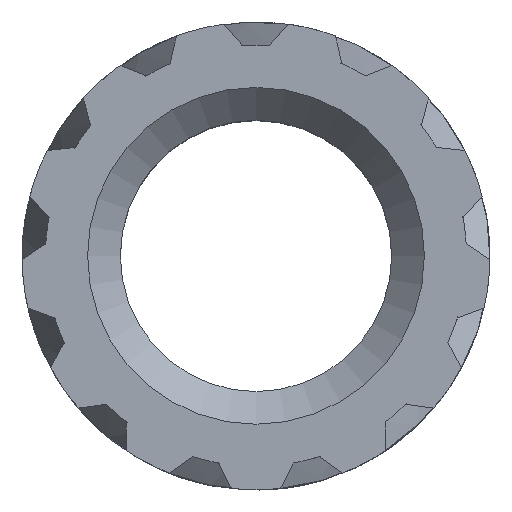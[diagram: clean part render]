
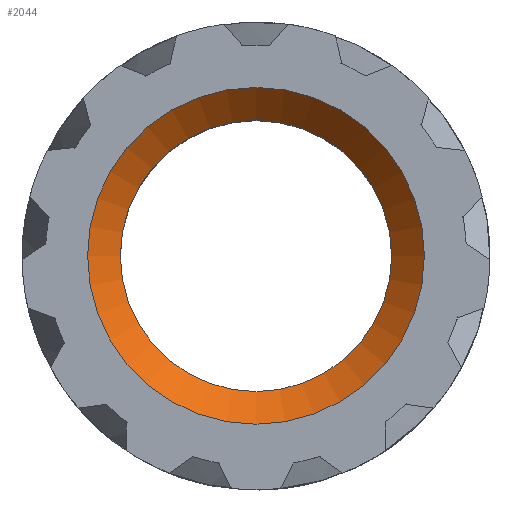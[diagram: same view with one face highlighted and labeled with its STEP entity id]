
A CAD part, top view. The second image highlights one B-rep face of the part: STEP entity #2044.
In plain terms, the highlighted conical face has half-angle 45 degrees and reference radius 1.65 mm.
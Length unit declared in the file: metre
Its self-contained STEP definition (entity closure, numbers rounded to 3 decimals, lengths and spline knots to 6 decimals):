
#13=CONICAL_SURFACE('',#2209,0.00165,0.785);
#973=ORIENTED_EDGE('',*,*,#1301,.T.);
#974=ORIENTED_EDGE('',*,*,#1302,.T.);
#1301=EDGE_CURVE('',#1521,#1521,#1637,.T.);
#1302=EDGE_CURVE('',#1522,#1522,#1638,.T.);
#1521=VERTEX_POINT('',#5932);
#1522=VERTEX_POINT('',#5935);
#1637=CIRCLE('',#2208,0.0018);
#1638=CIRCLE('',#2210,0.00145);
#1763=EDGE_LOOP('',(#973));
#1764=EDGE_LOOP('',(#974));
#1893=FACE_BOUND('',#1763,.T.);
#1894=FACE_BOUND('',#1764,.T.);
#2044=ADVANCED_FACE('',(#1893,#1894),#13,.F.);
#2208=AXIS2_PLACEMENT_3D('',#5931,#2538,#2539);
#2209=AXIS2_PLACEMENT_3D('',#5933,#2540,#2541);
#2210=AXIS2_PLACEMENT_3D('',#5934,#2542,#2543);
#2538=DIRECTION('',(0.,0.,1.));
#2539=DIRECTION('',(-1.,0.,0.));
#2540=DIRECTION('',(0.,0.,1.));
#2541=DIRECTION('',(-1.,0.,0.));
#2542=DIRECTION('',(0.,0.,-1.));
#2543=DIRECTION('',(-1.,0.,0.));
#5931=CARTESIAN_POINT('',(0.,0.,0.00385));
#5932=CARTESIAN_POINT('',(-0.0018,0.,0.00385));
#5933=CARTESIAN_POINT('',(0.,0.,0.0037));
#5934=CARTESIAN_POINT('',(0.,0.,0.0035));
#5935=CARTESIAN_POINT('',(-0.00145,0.,0.0035));
